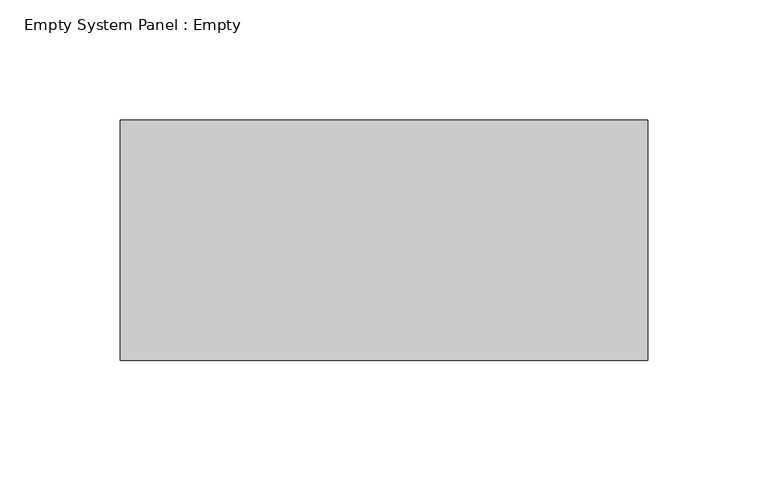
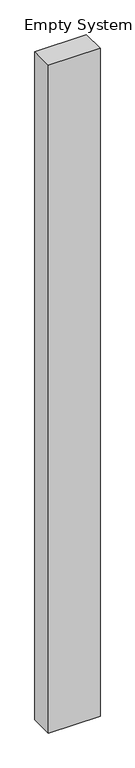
"""IFC4 building model written with IfcOpenShell, lengths in millimetres: plate geometry, Empty System Panel : Empty."""

from ifc_helpers import new_model, si_unit, origin, origin_with_axes, place, context, project, spatial, polyline, outline, extrude, source, transform, mapped, element, save


def empty_system_panel_empty_c2e1ed41(model_context):
    return source(origin(), model_context, "Body", "SweptSolid", [
        extrude(outline(polyline([(109.6204275, -50.0), (-109.6204275, -50.0), (-109.6204275, 50.0), (109.6204275, 50.0), (109.6204275, -50.0)])), origin_with_axes(), (0.0, 0.0, 1.0), 3000.0),
    ])


if __name__ == "__main__":
    model = new_model("IFC4")
    model_context = context("Model", 3, world=origin())
    ifc_project = project(units=[si_unit("LENGTHUNIT", "METRE", prefix="MILLI")], contexts=[model_context])
    site = spatial("IfcSite", under=ifc_project)
    building = spatial("IfcBuilding", under=site)
    placement = place(None, origin())
    empty_system_panel_empty_shape = empty_system_panel_empty_c2e1ed41(model_context)
    element("IfcPlate", 1, ObjectType="Empty System Panel : Empty", at=placement, inside=building, context=model_context, shape_type="MappedRepresentation", body=[
        mapped(empty_system_panel_empty_shape, transform((0.0, 0.0, 0.0), x_axis=(1.0, 0.0, 0.0), y_axis=(0.0, 1.0, 0.0), z_axis=(0.0, 0.0, 1.0))),
    ])
    save(model, "model.ifc")
